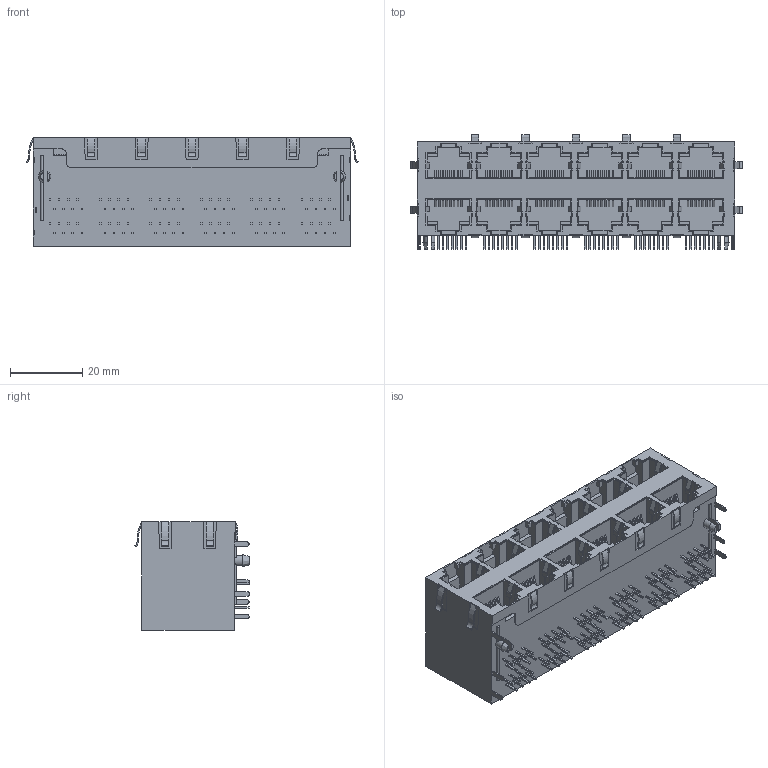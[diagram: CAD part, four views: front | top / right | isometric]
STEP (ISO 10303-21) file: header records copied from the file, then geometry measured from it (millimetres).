
FILE_DESCRIPTION((''),'2;1');
FILE_NAME('C-1-1734473-2','2016-02-10T',('workeradm'),('Tyco Electronics Ltd.'),'CREO PARAMETRIC BY PTC INC, 2015200','CREO PARAMETRIC BY PTC INC, 2015200','');
FILE_SCHEMA(('AUTOMOTIVE_DESIGN { 1 0 10303 214 1 1 1 1 }'));
Length unit declared in the file: millimetre
Products named in the file (1): C-1-1734473-2
Bounding box: 91.95 x 31.78 x 30.1 mm (x, y, z)
Volume: 55171 mm3; surface area: 20074.7 mm2
Topology: 1 solids, 1 shells, 1978 faces, 5470 edges, 3604 vertices
Faces by surface type: plane 1848, cylinder 126, cone 2, bspline 2
Entity records: 62367 total; most frequent: CARTESIAN_POINT 11215, ORIENTED_EDGE 10940, DIRECTION 9660, EDGE_CURVE 5470, VECTOR 5208, LINE 5208, VERTEX_POINT 3604, EDGE_LOOP 2284
